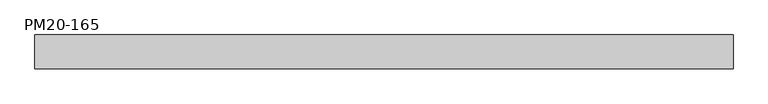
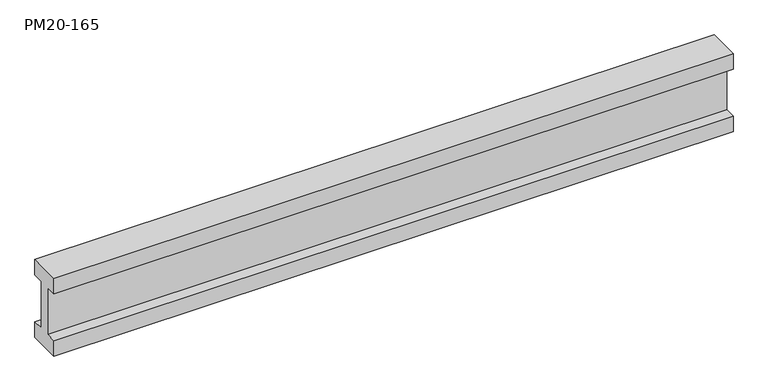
"""IFC4 building model written with IfcOpenShell, lengths in millimetres: proxy geometry, MILLS_POUTRELLES_M20 : PM20-165."""

import ifcopenshell
import ifcopenshell.guid

model = None  # the IFC model being written
_history = None  # IfcOwnerHistory: only IFC2X3 demands one
_inside = {}  # id of a spatial element -> (the spatial element, [elements in it])
_under = {}  # id of a project, library or spatial element -> (it, [spatial elements below it])
_declared = {}  # id of a project -> (the project, [libraries it declares])
_typed = {}  # id of a type object -> (the type object, [elements of that type])
_made_of = {}  # id of a material, layer set ... -> (it, [elements and type objects made of it])


def new_model(schema):
    """Start an empty IFC model of exactly this schema.

    Asked for "IFC4X3", IfcOpenShell would pick the latest addendum, in which some entities
    have other attributes; the version numbers below select the first issue.
    IFC2X3 requires an IfcOwnerHistory on every rooted entity: one is made here for all.
    """
    global model, _history
    if schema == "IFC4X3":
        model = ifcopenshell.file(schema_version=(4, 3, 0, 0))
    else:
        model = ifcopenshell.file(schema=schema)
    _inside.clear()
    _under.clear()
    _declared.clear()
    _typed.clear()
    _made_of.clear()
    _history = None
    if model.schema == "IFC2X3":
        org = make("IfcOrganization", Name="unknown")
        user = make(
            "IfcPersonAndOrganization",
            ThePerson=make("IfcPerson", FamilyName="unknown"),
            TheOrganization=org,
        )
        app = make(
            "IfcApplication",
            ApplicationDeveloper=org,
            Version="unknown",
            ApplicationFullName="unknown",
            ApplicationIdentifier="unknown",
        )
        _history = make(
            "IfcOwnerHistory",
            OwningUser=user,
            OwningApplication=app,
            ChangeAction="ADDED",
            CreationDate=0,
        )
    return model


def make(cls, **values):
    """One entity of the class cls with the attributes given. An attribute that is None is left unset."""
    return model.create_entity(
        cls, **{name: value for name, value in values.items() if value is not None}
    )


def rooted(cls, **values):
    """An entity with a GlobalId (a new one), such as an element, a storey or a relation."""
    return make(cls, GlobalId=ifcopenshell.guid.new(), OwnerHistory=_history, **values)


def si_unit(unit_type, name, prefix=None):
    """IfcSIUnit, for example si_unit("LENGTHUNIT", "METRE", prefix="MILLI")."""
    return make("IfcSIUnit", UnitType=unit_type, Prefix=prefix, Name=name)


def assignment(units):
    """IfcUnitAssignment: the units of a project."""
    return None if units is None else make("IfcUnitAssignment", Units=units)


def point(xyz):
    """IfcCartesianPoint."""
    return None if xyz is None else make("IfcCartesianPoint", Coordinates=xyz)


def direction(xyz):
    """IfcDirection."""
    return None if xyz is None else make("IfcDirection", DirectionRatios=xyz)


def frame(location, z_axis=None, x_axis=None):
    """IfcAxis2Placement3D, a coordinate frame: its origin and axes. An axis left out is left unset."""
    return make(
        "IfcAxis2Placement3D",
        Location=point(location),
        Axis=direction(z_axis),
        RefDirection=direction(x_axis),
    )


def origin():
    """The frame at (0, 0, 0) with its axes left unset."""
    return frame((0.0, 0.0, 0.0))


def place(relative_to, where):
    """IfcLocalPlacement: puts the frame where relative to a parent placement (None: the world)."""
    return make(
        "IfcLocalPlacement", PlacementRelTo=relative_to, RelativePlacement=where
    )


def context(
    kind, dimensions, precision=None, world=None, true_north=None, identifier=None
):
    """IfcGeometricRepresentationContext, for example the 3D "Model" context."""
    return make(
        "IfcGeometricRepresentationContext",
        ContextIdentifier=identifier,
        ContextType=kind,
        CoordinateSpaceDimension=dimensions,
        Precision=precision,
        WorldCoordinateSystem=world,
        TrueNorth=true_north,
    )


def project(units=None, contexts=None):
    """IfcProject with its units and contexts."""
    return rooted(
        "IfcProject",
        Name="project",
        RepresentationContexts=contexts,
        UnitsInContext=assignment(units),
    )


def spatial(cls, under=None, at=None, **own):
    """A site, building, storey or space (cls), placed at a placement, below another one or the project."""
    s = rooted(cls, ObjectPlacement=at, **own)
    if under is not None:
        _under.setdefault(under.id(), (under, []))[1].append(s)
    return s


def polyline(points):
    """IfcPolyline through the points."""
    return make("IfcPolyline", Points=[point(p) for p in points])


def outline(outer, holes=None, kind="AREA"):
    """IfcArbitraryClosedProfileDef: a profile drawn as a closed curve; with holes, ...WithVoids."""
    if holes is None:
        return make("IfcArbitraryClosedProfileDef", ProfileType=kind, OuterCurve=outer)
    return make(
        "IfcArbitraryProfileDefWithVoids",
        ProfileType=kind,
        OuterCurve=outer,
        InnerCurves=holes,
    )


def extrude(swept, where, along, depth):
    """IfcExtrudedAreaSolid: the profile swept, set in the frame where, extruded along a direction by depth."""
    return make(
        "IfcExtrudedAreaSolid",
        SweptArea=swept,
        Position=where,
        ExtrudedDirection=direction(along),
        Depth=depth,
    )


def shape(context_of_items, identifier, shape_type, items):
    """IfcShapeRepresentation: the items that make up one representation, for example the "Body"."""
    return make(
        "IfcShapeRepresentation",
        ContextOfItems=context_of_items,
        RepresentationIdentifier=identifier,
        RepresentationType=shape_type,
        Items=items,
    )


def source(mapping_origin, context_of_items, identifier, shape_type, items):
    """IfcRepresentationMap: a shape defined once, which mapped items show again and again."""
    return make(
        "IfcRepresentationMap",
        MappingOrigin=mapping_origin,
        MappedRepresentation=shape(context_of_items, identifier, shape_type, items),
    )


def transform(
    local_origin,
    x_axis=None,
    y_axis=None,
    z_axis=None,
    scale=None,
    scale2=None,
    scale3=None,
    uniform=True,
):
    """IfcCartesianTransformationOperator3D, or its non-uniform kind. x_axis, y_axis, z_axis: its Axis1, 2, 3."""
    if uniform:
        return make(
            "IfcCartesianTransformationOperator3D",
            Axis1=direction(x_axis),
            Axis2=direction(y_axis),
            LocalOrigin=point(local_origin),
            Scale=scale,
            Axis3=direction(z_axis),
        )
    return make(
        "IfcCartesianTransformationOperator3DnonUniform",
        Axis1=direction(x_axis),
        Axis2=direction(y_axis),
        LocalOrigin=point(local_origin),
        Scale=scale,
        Axis3=direction(z_axis),
        Scale2=scale2,
        Scale3=scale3,
    )


def mapped(mapping_source, mapping_target):
    """IfcMappedItem: shows the shape of a source again, moved by a transform."""
    return make(
        "IfcMappedItem", MappingSource=mapping_source, MappingTarget=mapping_target
    )


def made_of(thing, what):
    """Note that an element or type object is made of a material, layer set ...; save() writes the relation."""
    if what is not None:
        _made_of.setdefault(what.id(), (what, []))[1].append(thing)
    return thing


def element(
    cls,
    number,
    at=None,
    inside=None,
    cuts=None,
    type_object=None,
    material=None,
    context=None,
    identifier="Body",
    shape_type=None,
    held_by="IfcProductDefinitionShape",
    body=None,
    shapes=None,
    **own,
):
    """One element of the class cls, such as IfcWall. Its Tag is "e" and its number.

    at: its placement. inside: the storey or other place that contains it. cuts: it is an
    opening in that element (IfcRelVoidsElement). A single representation is given by context,
    identifier, shape_type and body (its items); several are given by shapes. held_by: the class
    of the entity that holds the representations. save() writes the other relations.
    """
    e = rooted(cls, Tag="e%d" % number, ObjectPlacement=at, **own)
    if body is not None:
        shapes = [shape(context, identifier, shape_type, body)]
    if shapes is not None:
        e.Representation = make(held_by, Representations=shapes)
    if inside is not None:
        _inside.setdefault(inside.id(), (inside, []))[1].append(e)
    if cuts is not None:
        rooted(
            "IfcRelVoidsElement", RelatingBuildingElement=cuts, RelatedOpeningElement=e
        )
    if type_object is not None:
        _typed.setdefault(type_object.id(), (type_object, []))[1].append(e)
    return made_of(e, material)


def aggregate(whole, parts):
    """IfcRelAggregates: a whole, such as a stair, and the parts it consists of."""
    return rooted("IfcRelAggregates", RelatingObject=whole, RelatedObjects=parts)


def save(model, path):
    """Write the relations noted so far, then the file.

    IfcRelAggregates (storeys below a building ...), IfcRelContainedInSpatialStructure (elements
    in a storey), IfcRelDefinesByType, IfcRelAssociatesMaterial and IfcRelDeclares: one each for
    every whole, place, type object, material and project.
    """
    for whole, parts in _under.values():
        aggregate(whole, parts)
    for where, things in _inside.values():
        rooted(
            "IfcRelContainedInSpatialStructure",
            RelatedElements=things,
            RelatingStructure=where,
        )
    for kind, things in _typed.values():
        rooted("IfcRelDefinesByType", RelatedObjects=things, RelatingType=kind)
    for what, things in _made_of.values():
        rooted("IfcRelAssociatesMaterial", RelatedObjects=things, RelatingMaterial=what)
    for by, libraries in _declared.values():
        rooted("IfcRelDeclares", RelatingContext=by, RelatedDefinitions=libraries)
    model.write(path)


def pm20_165_69542f47(model_context):
    return source(origin(), model_context, "Body", "SweptSolid", [
        extrude(outline(polyline([(-40.0, 0.0), (-40.0, 40.0), (-13.5, 40.0), (-13.5, 160.0), (-40.0, 160.0), (-40.0, 200.0), (40.0, 200.0), (40.0, 160.0), (13.5, 160.0), (13.5, 40.0), (40.0, 40.0), (40.0, 0.0), (-40.0, 0.0)])), frame((-930.6475729, 0.0, 0.0), z_axis=(1.0, 0.0, 0.0), x_axis=(0.0, 1.0, 0.0)), (0.0, 0.0, 1.0), 1650.0),
    ])


if __name__ == "__main__":
    model = new_model("IFC4")
    model_context = context("Model", 3, world=origin())
    ifc_project = project(units=[si_unit("LENGTHUNIT", "METRE", prefix="MILLI")], contexts=[model_context])
    site = spatial("IfcSite", under=ifc_project)
    building = spatial("IfcBuilding", under=site)
    placement = place(None, origin())
    pm20_165_shape = pm20_165_69542f47(model_context)
    element("IfcBuildingElementProxy", 1, Name="MILLS_POUTRELLES_M20 : PM20-165", ObjectType="MILLS_POUTRELLES_M20 : PM20-165", at=placement, inside=building, context=model_context, shape_type="MappedRepresentation", body=[
        mapped(pm20_165_shape, transform((0.0, 0.0, 0.0), x_axis=(1.0, 0.0, 0.0), y_axis=(0.0, 1.0, 0.0), z_axis=(0.0, 0.0, 1.0))),
    ])
    save(model, "model.ifc")
